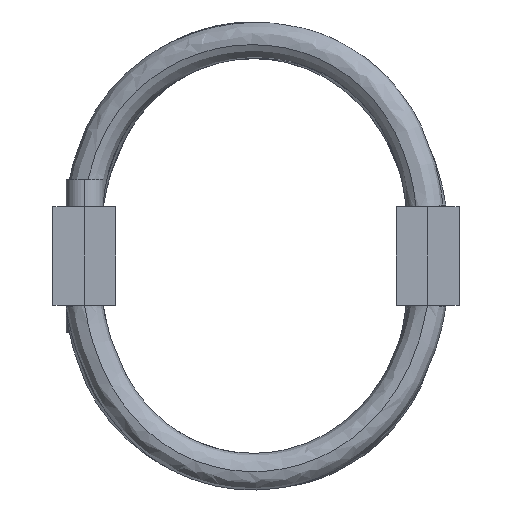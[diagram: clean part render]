
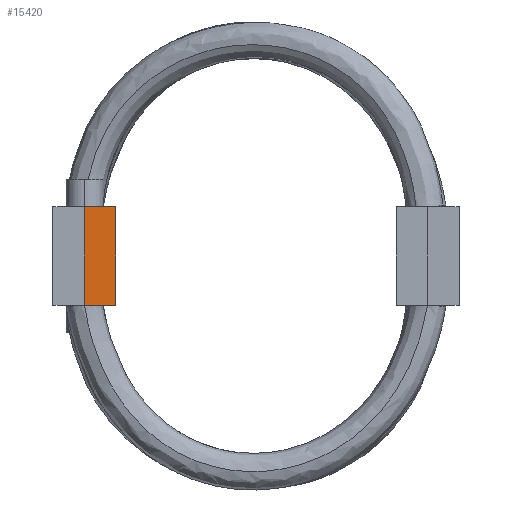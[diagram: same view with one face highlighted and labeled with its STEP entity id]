
A CAD part, left-side view. The second image highlights one B-rep face of the part: STEP entity #15420.
In plain terms, the highlighted planar face has unit normal (-1, 0, 0).
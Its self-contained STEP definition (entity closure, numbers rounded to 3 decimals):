
#2178 = CARTESIAN_POINT ( 'NONE',  ( -107.95, 40.275, 0. ) ) ;
#2401 = ORIENTED_EDGE ( 'NONE', *, *, #14704, .T. ) ;
#7315 = DIRECTION ( 'NONE',  ( -1., 0., 0. ) ) ;
#7813 = CARTESIAN_POINT ( 'NONE',  ( -107.95, 36.2, 12.7 ) ) ;
#8320 = ORIENTED_EDGE ( 'NONE', *, *, #17061, .T. ) ;
#10045 = VECTOR ( 'NONE', #28048, 1000. ) ;
#10295 = VERTEX_POINT ( 'NONE', #14666 ) ;
#10649 = EDGE_CURVE ( 'NONE', #10295, #18639, #28780, .T. ) ;
#11343 = VERTEX_POINT ( 'NONE', #14342 ) ;
#11429 = DIRECTION ( 'NONE',  ( 0., 0., -1. ) ) ;
#11462 = CARTESIAN_POINT ( 'NONE',  ( -107.95, 36.2, -12.7 ) ) ;
#11786 = EDGE_LOOP ( 'NONE', ( #2401, #8320, #14223, #15920 ) ) ;
#12794 = CARTESIAN_POINT ( 'NONE',  ( -107.95, 44.35, 12.7 ) ) ;
#14223 = ORIENTED_EDGE ( 'NONE', *, *, #30955, .T. ) ;
#14342 = CARTESIAN_POINT ( 'NONE',  ( -107.95, 44.35, -12.7 ) ) ;
#14666 = CARTESIAN_POINT ( 'NONE',  ( -107.95, 36.2, -12.7 ) ) ;
#14704 = EDGE_CURVE ( 'NONE', #18639, #30432, #29444, .T. ) ;
#15420 = ADVANCED_FACE ( 'NONE', ( #24663 ), #17448, .T. ) ;
#15569 = CARTESIAN_POINT ( 'NONE',  ( -107.95, 36.2, 12.7 ) ) ;
#15920 = ORIENTED_EDGE ( 'NONE', *, *, #10649, .T. ) ;
#16116 = AXIS2_PLACEMENT_3D ( 'NONE', #2178, #7315, #22584 ) ;
#16640 = LINE ( 'NONE', #26717, #29332 ) ;
#17061 = EDGE_CURVE ( 'NONE', #30432, #11343, #16640, .T. ) ;
#17448 = PLANE ( 'NONE',  #16116 ) ;
#18639 = VERTEX_POINT ( 'NONE', #15569 ) ;
#21187 = DIRECTION ( 'NONE',  ( 0., 0., 1. ) ) ;
#21278 = VECTOR ( 'NONE', #26642, 1000. ) ;
#22022 = VECTOR ( 'NONE', #21187, 1000. ) ;
#22061 = LINE ( 'NONE', #11462, #21278 ) ;
#22584 = DIRECTION ( 'NONE',  ( 0., 0., 1. ) ) ;
#24663 = FACE_OUTER_BOUND ( 'NONE', #11786, .T. ) ;
#26642 = DIRECTION ( 'NONE',  ( 0., -1., 0. ) ) ;
#26717 = CARTESIAN_POINT ( 'NONE',  ( -107.95, 44.35, -12.7 ) ) ;
#28048 = DIRECTION ( 'NONE',  ( 0., 1., 0. ) ) ;
#28780 = LINE ( 'NONE', #31268, #22022 ) ;
#29332 = VECTOR ( 'NONE', #11429, 1000. ) ;
#29444 = LINE ( 'NONE', #7813, #10045 ) ;
#30432 = VERTEX_POINT ( 'NONE', #12794 ) ;
#30955 = EDGE_CURVE ( 'NONE', #11343, #10295, #22061, .T. ) ;
#31268 = CARTESIAN_POINT ( 'NONE',  ( -107.95, 36.2, -12.7 ) ) ;
